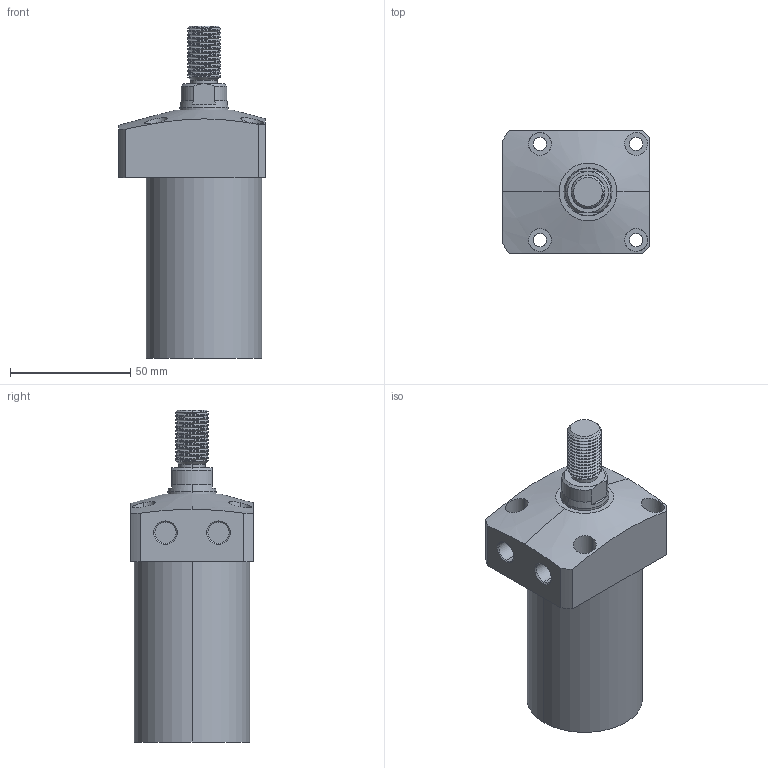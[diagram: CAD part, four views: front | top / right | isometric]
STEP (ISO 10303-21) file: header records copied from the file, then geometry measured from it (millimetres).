
FILE_DESCRIPTION (( 'STEP AP203' ), '1' );
FILE_NAME ('CLL-048CT-065.STEP', '2020-01-10T01:16:04', ( '' ), ( '' ), 'SwSTEP 2.0', 'SolidWorks 2015', '' );
FILE_SCHEMA (( 'CONFIG_CONTROL_DESIGN' ));
Length unit declared in the file: millimetre
Products named in the file (1): CLL-048CT-065
Bounding box: 61 x 51 x 138 mm (x, y, z)
Volume: 214749.9 mm3; surface area: 27275 mm2
Topology: 1 solids, 1 shells, 105 faces, 262 edges, 170 vertices
Faces by surface type: cylinder 63, plane 24, cone 16, bspline 2
Entity records: 5139 total; most frequent: CARTESIAN_POINT 2695, ORIENTED_EDGE 524, DIRECTION 464, EDGE_CURVE 262, AXIS2_PLACEMENT_3D 184, VERTEX_POINT 170, EDGE_LOOP 124, ADVANCED_FACE 105
